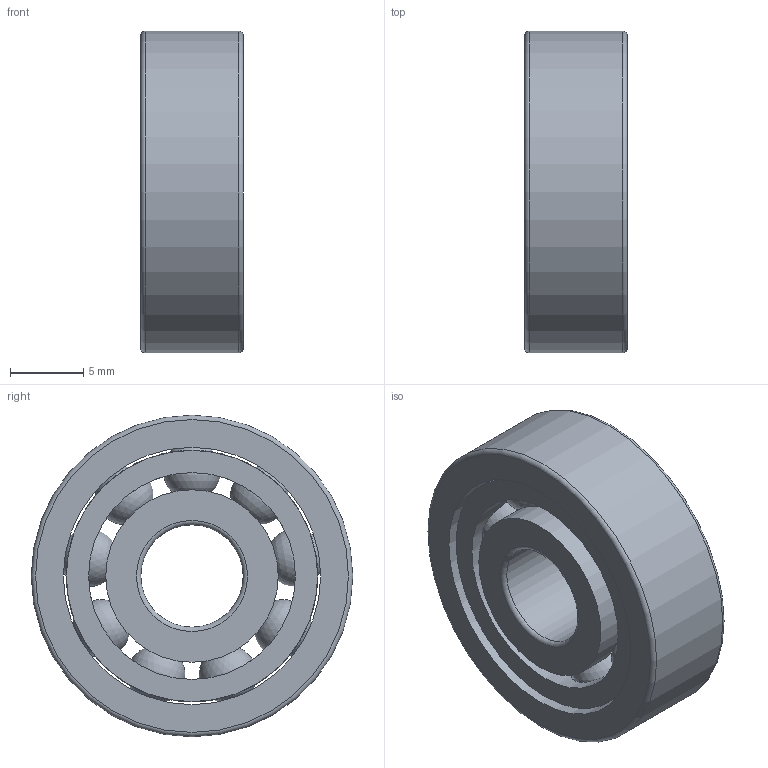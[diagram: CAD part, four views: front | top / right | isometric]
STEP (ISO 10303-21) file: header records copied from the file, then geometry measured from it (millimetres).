
FILE_DESCRIPTION(/* description */ (''),/* implementation_level */ '2;1');
FILE_NAME(/* name */ 'S_627_TA.step',/* time_stamp */ '2013-03-06T14:48:59+01:00',/* author */ ('Marian'),/* organization */ ('GMN'),/* preprocessor_version */ 'ST-DEVELOPER v11',/* originating_system */ 'SIEMENS UGS NX 6.0',/* authorisation */ '');
FILE_SCHEMA (('CONFIG_CONTROL_DESIGN'));
Length unit declared in the file: millimetre
Products named in the file (1): S_627_TA
Bounding box: 7 x 22 x 22 mm (x, y, z)
Volume: 1856.4 mm3; surface area: 2790.1 mm2
Topology: 12 solids, 12 shells, 38 faces, 88 edges, 56 vertices
Faces by surface type: cylinder 16, sphere 9, torus 6, plane 6, cone 1
Full cylindrical faces by diameter (mm): 4.169 x9, 7 x1, 11.8 x2, 14.149 x1, 17.2 x1, 17.6 x1, 22 x1
Entity records: 1884 total; most frequent: CARTESIAN_POINT 1150, DIRECTION 118, FACE_BOUND 85, EDGE_LOOP 76, ORIENTED_EDGE 76, AXIS2_PLACEMENT_3D 59, VERTEX_POINT 47, EDGE_CURVE 38
